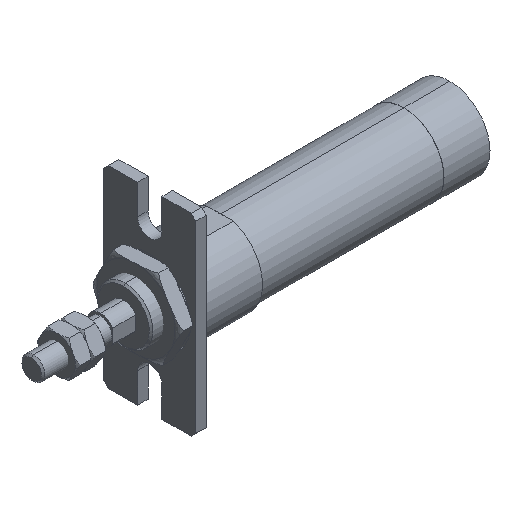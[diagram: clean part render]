
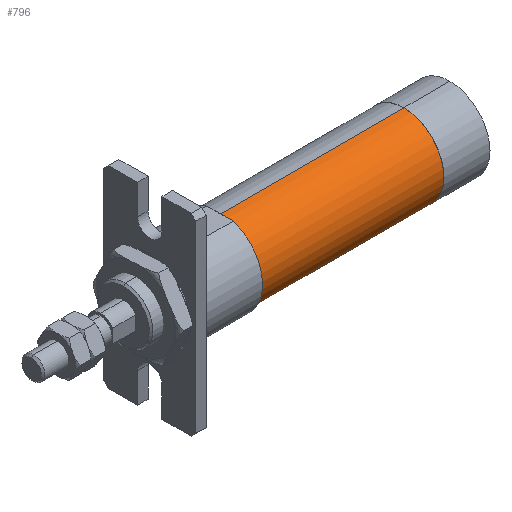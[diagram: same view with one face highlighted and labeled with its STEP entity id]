
A CAD part, isometric view. The second image highlights one B-rep face of the part: STEP entity #796.
In plain terms, the highlighted cylindrical face has radius 8.7 mm (diameter 17.4 mm), a partial arc.
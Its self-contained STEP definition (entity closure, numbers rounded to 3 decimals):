
#57 = VERTEX_POINT ( 'NONE', #1433 ) ;
#128 = ORIENTED_EDGE ( 'NONE', *, *, #1793, .T. ) ;
#362 = VECTOR ( 'NONE', #3606, 1000. ) ;
#459 = EDGE_CURVE ( 'NONE', #57, #2802, #2548, .T. ) ;
#490 = DIRECTION ( 'NONE',  ( 0., 0., 1. ) ) ;
#495 = LINE ( 'NONE', #3629, #3292 ) ;
#539 = CARTESIAN_POINT ( 'NONE',  ( 41., 0., -8.7 ) ) ;
#635 = VERTEX_POINT ( 'NONE', #1848 ) ;
#796 = ADVANCED_FACE ( 'NONE', ( #1805 ), #3753, .T. ) ;
#1319 = DIRECTION ( 'NONE',  ( -1., 0., 0. ) ) ;
#1338 = EDGE_CURVE ( 'NONE', #57, #635, #3615, .T. ) ;
#1354 = EDGE_CURVE ( 'NONE', #2802, #3211, #2387, .T. ) ;
#1418 = CARTESIAN_POINT ( 'NONE',  ( 41., 0., 8.7 ) ) ;
#1426 = DIRECTION ( 'NONE',  ( -1., 0., 0. ) ) ;
#1433 = CARTESIAN_POINT ( 'NONE',  ( 81., 0., -8.7 ) ) ;
#1496 = CARTESIAN_POINT ( 'NONE',  ( 41., 0., 0. ) ) ;
#1658 = ORIENTED_EDGE ( 'NONE', *, *, #1338, .T. ) ;
#1707 = AXIS2_PLACEMENT_3D ( 'NONE', #1496, #1982, #2488 ) ;
#1793 = EDGE_CURVE ( 'NONE', #635, #3211, #495, .T. ) ;
#1805 = FACE_OUTER_BOUND ( 'NONE', #2781, .T. ) ;
#1848 = CARTESIAN_POINT ( 'NONE',  ( 81., 0., 8.7 ) ) ;
#1982 = DIRECTION ( 'NONE',  ( -1., 0., 0. ) ) ;
#2065 = CARTESIAN_POINT ( 'NONE',  ( 0., 0., 0. ) ) ;
#2164 = CARTESIAN_POINT ( 'NONE',  ( 81., 0., 0. ) ) ;
#2387 = CIRCLE ( 'NONE', #1707, 8.7 ) ;
#2435 = DIRECTION ( 'NONE',  ( -1., 0., 0. ) ) ;
#2472 = ORIENTED_EDGE ( 'NONE', *, *, #1354, .F. ) ;
#2488 = DIRECTION ( 'NONE',  ( 0., 0., 1. ) ) ;
#2548 = LINE ( 'NONE', #3047, #362 ) ;
#2781 = EDGE_LOOP ( 'NONE', ( #3183, #1658, #128, #2472 ) ) ;
#2802 = VERTEX_POINT ( 'NONE', #539 ) ;
#2931 = AXIS2_PLACEMENT_3D ( 'NONE', #2164, #1426, #3300 ) ;
#3047 = CARTESIAN_POINT ( 'NONE',  ( 0., 0., -8.7 ) ) ;
#3183 = ORIENTED_EDGE ( 'NONE', *, *, #459, .F. ) ;
#3211 = VERTEX_POINT ( 'NONE', #1418 ) ;
#3292 = VECTOR ( 'NONE', #2435, 1000. ) ;
#3300 = DIRECTION ( 'NONE',  ( 0., 0., 1. ) ) ;
#3500 = AXIS2_PLACEMENT_3D ( 'NONE', #2065, #1319, #490 ) ;
#3606 = DIRECTION ( 'NONE',  ( -1., 0., 0. ) ) ;
#3615 = CIRCLE ( 'NONE', #2931, 8.7 ) ;
#3629 = CARTESIAN_POINT ( 'NONE',  ( 0., 0., 8.7 ) ) ;
#3753 = CYLINDRICAL_SURFACE ( 'NONE', #3500, 8.7 ) ;
